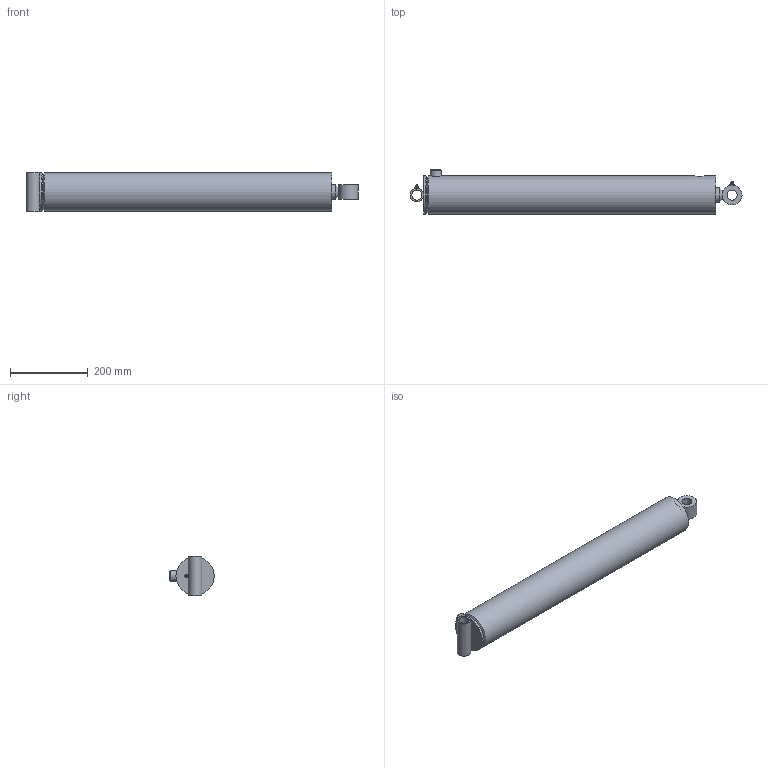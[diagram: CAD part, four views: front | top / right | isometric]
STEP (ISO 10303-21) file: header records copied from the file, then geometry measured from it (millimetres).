
FILE_DESCRIPTION((''),'2;1');
FILE_NAME('\\SRVR-ENG\EngSales\PMC-5524.stp','2011-04-27T07:32:21',('KneiflD'),(''),'Autodesk Inventor 2011','Autodesk Inventor 2011','');
FILE_SCHEMA(('AUTOMOTIVE_DESIGN { 1 0 10303 214 1 1 1 1 }'));
Length unit declared in the file: inch
Products named in the file (23): PMC-5524; 061700029; 051700044; 161700005V; 200014404V; 210400024V; 020800261; 010800792; 210400528V; 071700016V; 081700326V; 220000210V; 240004007V; 240063338V; 240000338V; 240000022V; 240061338V; 240020059V; 230001350V; 200018003V; 270010002V; 270010020V; 250001222V
Assembly tree (25 placements, depth 3):
  PMC-5524
    061700029
      051700044
      161700005V
      200014404V
      210400024V
    020800261
      010800792
      210400528V
    071700016V
    081700326V
    220000210V
    240004007V
    240063338V  x2
    240000338V  x2
    240000022V
    240061338V
    240020059V
    230001350V
    200018003V  x2
    270010002V
    270010020V
    250001222V
Bounding box: 855.65 x 114.3 x 101.6 mm (x, y, z)
Volume: 2555136 mm3; surface area: 700434.8 mm2
Topology: 23 solids, 23 shells, 257 faces, 526 edges, 319 vertices
Faces by surface type: plane 114, cylinder 66, cone 38, torus 33, bspline 4, sphere 2
Full cylindrical faces by diameter (mm): 1.143 x2, 1.524 x2, 3.175 x2, 5.486 x1, 6.074 x1, 8.839 x1, 9.08 x1, 12.7 x1, 17.463 x1, 17.475 x1, 23.813 x1, 23.825 x1, 25.349 x1, 25.476 x1, 25.908 x1, 26.162 x1, 27.965 x1, 28.575 x1, 34.925 x1, 38.1 x2, 38.176 x2, 39.052 x1, 41.91 x1, 46.025 x2, 46.673 x1, 47.625 x1, 50.8 x1, 53.975 x1, 69.342 x1, 79.375 x2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
Entity records: 6738 total; most frequent: CARTESIAN_POINT 1592, DIRECTION 1040, ORIENTED_EDGE 680, AXIS2_PLACEMENT_3D 473, EDGE_LOOP 406, EDGE_CURVE 340, VERTEX_POINT 274, FACE_OUTER_BOUND 234
